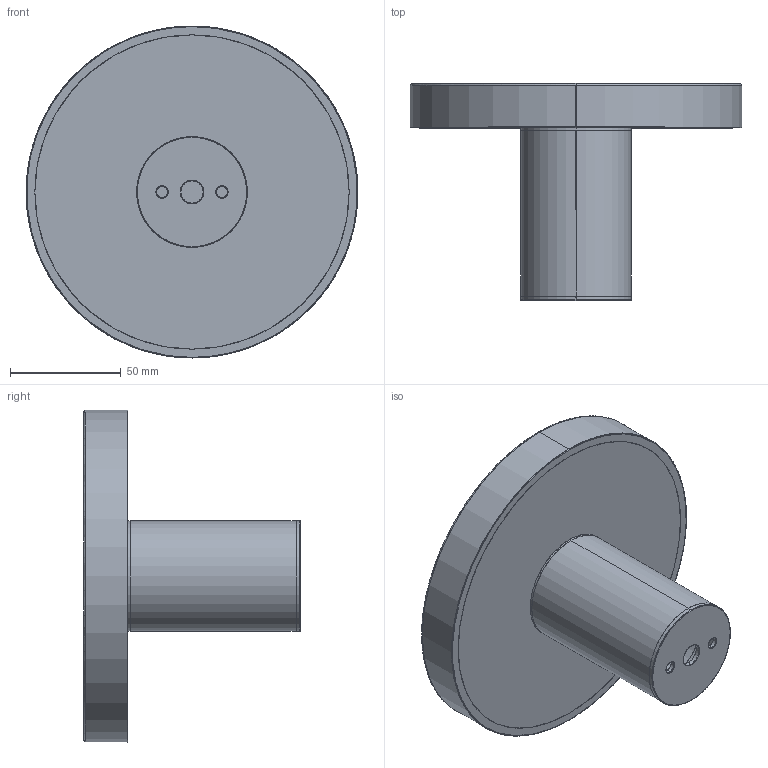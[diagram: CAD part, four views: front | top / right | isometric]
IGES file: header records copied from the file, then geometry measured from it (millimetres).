
Start section: SolidWorks IGES file using analytic representation for surfaces
Global section: file name: C:\Users\danielet\Desktop\ISMAIL\CHAMALEON\CHAMALEON-A39751000-3D\CHAMALEON-A39751000-3D.IGS; native system: SolidWorks 2018; preprocessor: SolidWorks 2018; author: danielet; date: 230321.090129; units: millimetre
Bounding box: 150 x 98 x 150 mm (x, y, z)
Surface area: 110275.7 mm2 (no closed solid volume)
Topology: 0 solids, 0 shells, 98 faces, 2192 edges, 2192 vertices
Faces by surface type: bspline 60, revolution 38
